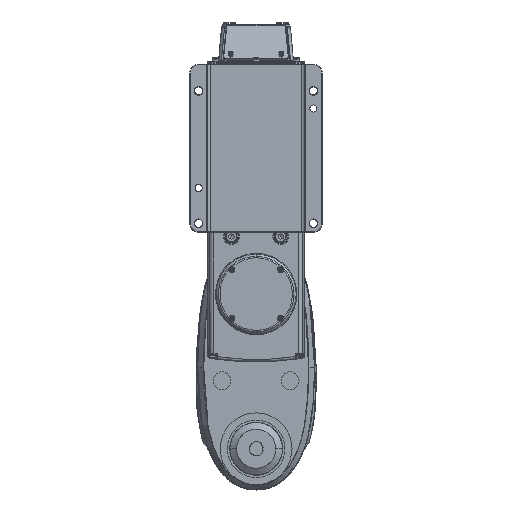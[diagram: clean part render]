
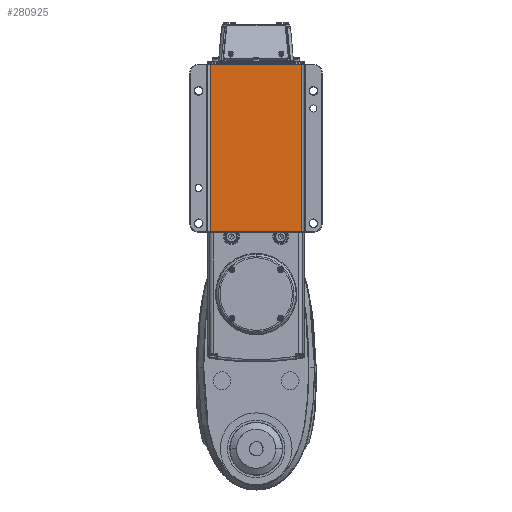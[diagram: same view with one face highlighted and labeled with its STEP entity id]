
A CAD part, front view. The second image highlights one B-rep face of the part: STEP entity #280925.
In plain terms, the highlighted planar face has unit normal (0, -1, 0).
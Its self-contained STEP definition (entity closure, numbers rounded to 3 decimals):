
#1381 = FACE_OUTER_BOUND ( 'NONE', #311966, .T. ) ;
#9258 = DIRECTION ( 'NONE',  ( 1., 0., 0. ) ) ;
#13363 = CARTESIAN_POINT ( 'NONE',  ( 55., -12., 134.5 ) ) ;
#47573 = LINE ( 'NONE', #244725, #65700 ) ;
#52736 = ORIENTED_EDGE ( 'NONE', *, *, #300765, .F. ) ;
#52832 = VECTOR ( 'NONE', #348405, 1000. ) ;
#62752 = DIRECTION ( 'NONE',  ( 0., 0., -1. ) ) ;
#64806 = CARTESIAN_POINT ( 'NONE',  ( 52., -12., 135. ) ) ;
#65700 = VECTOR ( 'NONE', #111912, 1000. ) ;
#111912 = DIRECTION ( 'NONE',  ( 0., 0., 1. ) ) ;
#115102 = VERTEX_POINT ( 'NONE', #225428 ) ;
#119075 = EDGE_CURVE ( 'NONE', #115102, #327691, #384720, .T. ) ;
#127533 = ORIENTED_EDGE ( 'NONE', *, *, #407997, .F. ) ;
#128038 = CARTESIAN_POINT ( 'NONE',  ( 55., -12., 135. ) ) ;
#136416 = AXIS2_PLACEMENT_3D ( 'NONE', #128038, #219511, #381604 ) ;
#154252 = VECTOR ( 'NONE', #9258, 1000. ) ;
#171448 = CARTESIAN_POINT ( 'NONE',  ( -52., -12., 134.5 ) ) ;
#176324 = CARTESIAN_POINT ( 'NONE',  ( -52., -12., -54.5 ) ) ;
#205802 = ORIENTED_EDGE ( 'NONE', *, *, #254428, .F. ) ;
#215814 = VERTEX_POINT ( 'NONE', #171448 ) ;
#219511 = DIRECTION ( 'NONE',  ( 0., 1., 0. ) ) ;
#225428 = CARTESIAN_POINT ( 'NONE',  ( 52., -12., 134.5 ) ) ;
#233092 = VERTEX_POINT ( 'NONE', #176324 ) ;
#233241 = LINE ( 'NONE', #13363, #154252 ) ;
#244725 = CARTESIAN_POINT ( 'NONE',  ( -52., -12., 135. ) ) ;
#254428 = EDGE_CURVE ( 'NONE', #215814, #115102, #233241, .T. ) ;
#279494 = VECTOR ( 'NONE', #62752, 1000. ) ;
#280925 = ADVANCED_FACE ( 'NONE', ( #1381 ), #354506, .F. ) ;
#284772 = CARTESIAN_POINT ( 'NONE',  ( 52., -12., -54.5 ) ) ;
#300765 = EDGE_CURVE ( 'NONE', #327691, #233092, #381666, .T. ) ;
#311966 = EDGE_LOOP ( 'NONE', ( #356324, #205802, #127533, #52736 ) ) ;
#327691 = VERTEX_POINT ( 'NONE', #284772 ) ;
#344290 = CARTESIAN_POINT ( 'NONE',  ( 55., -12., -54.5 ) ) ;
#348405 = DIRECTION ( 'NONE',  ( -1., 0., 0. ) ) ;
#354506 = PLANE ( 'NONE',  #136416 ) ;
#356324 = ORIENTED_EDGE ( 'NONE', *, *, #119075, .F. ) ;
#381604 = DIRECTION ( 'NONE',  ( 0., 0., 1. ) ) ;
#381666 = LINE ( 'NONE', #344290, #52832 ) ;
#384720 = LINE ( 'NONE', #64806, #279494 ) ;
#407997 = EDGE_CURVE ( 'NONE', #233092, #215814, #47573, .T. ) ;
